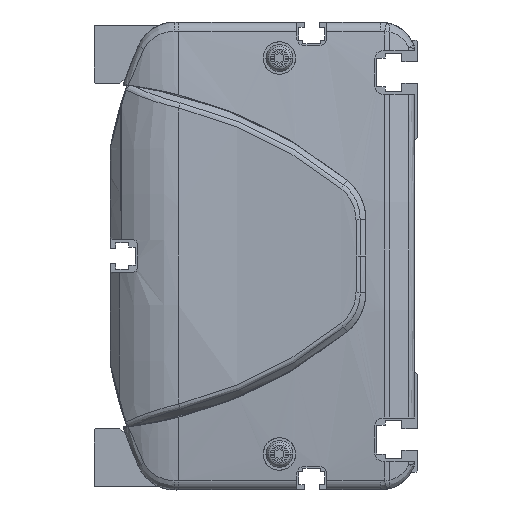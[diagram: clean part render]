
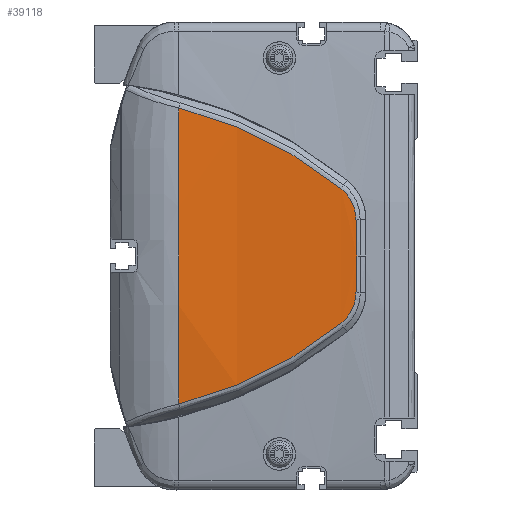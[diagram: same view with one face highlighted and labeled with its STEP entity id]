
A CAD part, left-side view. The second image highlights one B-rep face of the part: STEP entity #39118.
In plain terms, the highlighted cylindrical face has radius 500 mm (diameter 1000 mm), a partial arc.
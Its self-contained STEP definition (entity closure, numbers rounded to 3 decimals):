
#35371=CARTESIAN_POINT('',(486.,66.362,0.));
#35372=DIRECTION('',(0.,-1.,0.));
#35373=DIRECTION('',(-0.997,0.,0.082));
#35374=AXIS2_PLACEMENT_3D('',#35371,#35372,#35373);
#36255=CARTESIAN_POINT('',(-13.648,21.313,
-18.759));
#36256=CARTESIAN_POINT('',(-13.449,27.904,
-24.058));
#36257=CARTESIAN_POINT('',(-12.934,42.195,
-33.27));
#36258=CARTESIAN_POINT('',(-12.471,58.156,
-39.127));
#36259=CARTESIAN_POINT('',(-12.306,66.362,
-41.121));
#36261=CARTESIAN_POINT('',(-12.306,66.362,
41.121));
#36262=CARTESIAN_POINT('',(-12.471,58.156,
39.127));
#36263=CARTESIAN_POINT('',(-12.934,42.195,
33.27));
#36264=CARTESIAN_POINT('',(-13.449,27.904,
24.058));
#36265=CARTESIAN_POINT('',(-13.648,21.313,
18.759));
#36267=CARTESIAN_POINT('',(-13.648,21.313,
18.759));
#36268=CARTESIAN_POINT('',(-13.686,20.035,
17.736));
#36269=CARTESIAN_POINT('',(-13.779,17.936,
15.107));
#36270=CARTESIAN_POINT('',(-13.863,17.152,
11.827));
#36271=CARTESIAN_POINT('',(-13.896,17.124,
10.178));
#36273=CARTESIAN_POINT('',(-13.896,17.124,
10.178));
#36274=CARTESIAN_POINT('',(-13.92,17.107,
9.026));
#36275=CARTESIAN_POINT('',(-13.959,17.067,
6.736));
#36276=CARTESIAN_POINT('',(-13.993,16.98,
3.342));
#36277=CARTESIAN_POINT('',(-14.,16.898,
1.109));
#36278=CARTESIAN_POINT('',(-14.,16.849,
0.));
#36280=CARTESIAN_POINT('',(-14.,16.849,
0.));
#36281=CARTESIAN_POINT('',(-14.,16.898,
-1.109));
#36282=CARTESIAN_POINT('',(-13.993,16.98,
-3.342));
#36283=CARTESIAN_POINT('',(-13.959,17.067,
-6.735));
#36284=CARTESIAN_POINT('',(-13.92,17.107,
-9.028));
#36285=CARTESIAN_POINT('',(-13.896,17.124,
-10.18));
#36287=CARTESIAN_POINT('',(-13.896,17.124,
-10.18));
#36288=CARTESIAN_POINT('',(-13.863,17.152,
-11.828));
#36289=CARTESIAN_POINT('',(-13.779,17.937,
-15.109));
#36290=CARTESIAN_POINT('',(-13.686,20.035,
-17.736));
#36291=CARTESIAN_POINT('',(-13.648,21.313,
-18.759));
#36940=VERTEX_POINT('',#36255);
#36941=VERTEX_POINT('',#36259);
#36942=CARTESIAN_POINT('',(-12.306,66.362,
41.121));
#36943=VERTEX_POINT('',#36942);
#36944=VERTEX_POINT('',#36265);
#36945=VERTEX_POINT('',#36271);
#36946=VERTEX_POINT('',#36278);
#36947=VERTEX_POINT('',#36285);
#39099=CARTESIAN_POINT('',(486.,8.006,0.));
#39100=DIRECTION('',(0.,1.,0.));
#39101=DIRECTION('',(1.,0.,0.));
#39102=AXIS2_PLACEMENT_3D('',#39099,#39100,#39101);
#39103=CYLINDRICAL_SURFACE('',#39102,500.);
#39105=ORIENTED_EDGE('',*,*,#39104,.T.);
#39106=ORIENTED_EDGE('',*,*,#37742,.F.);
#39108=ORIENTED_EDGE('',*,*,#39107,.T.);
#39110=ORIENTED_EDGE('',*,*,#39109,.T.);
#39112=ORIENTED_EDGE('',*,*,#39111,.T.);
#39114=ORIENTED_EDGE('',*,*,#39113,.T.);
#39115=ORIENTED_EDGE('',*,*,#39089,.T.);
#39116=EDGE_LOOP('',(#39105,#39106,#39108,#39110,#39112,#39114,#39115));
#39117=FACE_OUTER_BOUND('',#39116,.F.);
#39118=ADVANCED_FACE('',(#39117),#39103,.T.);
#35375=CIRCLE('',#35374,500.);
#36260=B_SPLINE_CURVE_WITH_KNOTS('',3,(#36255,#36256,#36257,#36258,#36259),
.UNSPECIFIED.,.F.,.F.,(4,1,4),(0.,0.5,1.),.UNSPECIFIED.);
#36266=B_SPLINE_CURVE_WITH_KNOTS('',3,(#36261,#36262,#36263,#36264,#36265),
.UNSPECIFIED.,.F.,.F.,(4,1,4),(0.,0.5,1.),.UNSPECIFIED.);
#36272=B_SPLINE_CURVE_WITH_KNOTS('',3,(#36267,#36268,#36269,#36270,#36271),
.UNSPECIFIED.,.F.,.F.,(4,1,4),(0.,0.5,1.),.UNSPECIFIED.);
#36279=B_SPLINE_CURVE_WITH_KNOTS('',3,(#36273,#36274,#36275,#36276,#36277,
#36278),.UNSPECIFIED.,.F.,.F.,(4,1,1,4),(0.,0.333,
0.667,1.),.UNSPECIFIED.);
#36286=B_SPLINE_CURVE_WITH_KNOTS('',3,(#36280,#36281,#36282,#36283,#36284,
#36285),.UNSPECIFIED.,.F.,.F.,(4,1,1,4),(0.,0.333,
0.667,1.),.UNSPECIFIED.);
#36292=B_SPLINE_CURVE_WITH_KNOTS('',3,(#36287,#36288,#36289,#36290,#36291),
.UNSPECIFIED.,.F.,.F.,(4,1,4),(0.,0.5,1.),.UNSPECIFIED.);
#37742=EDGE_CURVE('',#36943,#36941,#35375,.T.);
#39089=EDGE_CURVE('',#36947,#36940,#36292,.T.);
#39104=EDGE_CURVE('',#36940,#36941,#36260,.T.);
#39107=EDGE_CURVE('',#36943,#36944,#36266,.T.);
#39109=EDGE_CURVE('',#36944,#36945,#36272,.T.);
#39111=EDGE_CURVE('',#36945,#36946,#36279,.T.);
#39113=EDGE_CURVE('',#36946,#36947,#36286,.T.);
